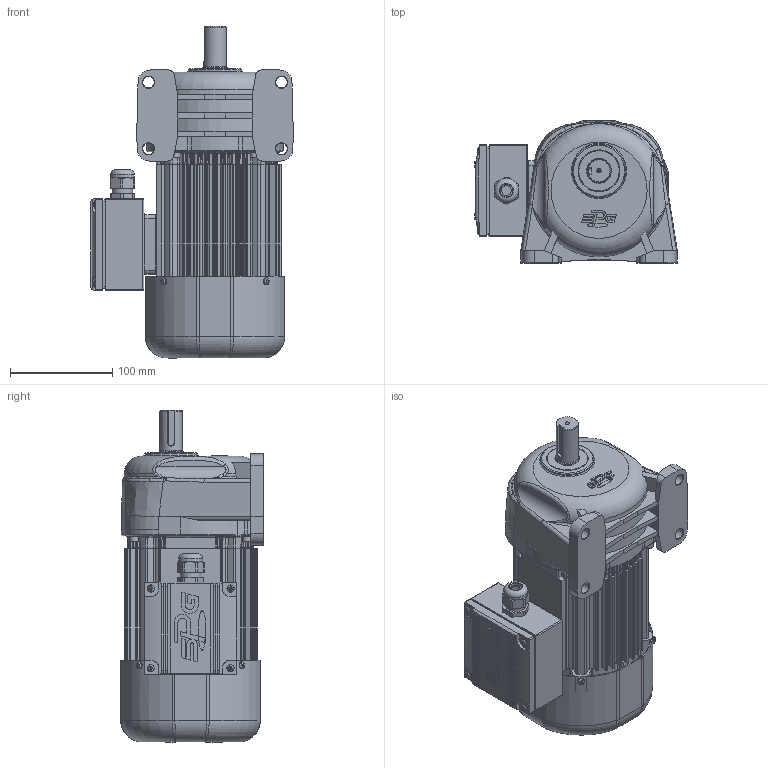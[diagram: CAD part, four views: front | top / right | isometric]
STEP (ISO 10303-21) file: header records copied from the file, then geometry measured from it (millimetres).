
FILE_DESCRIPTION(/* description */ (''),/* implementation_level */ '2;1');
FILE_NAME(/* name */ 'Z:\동력 3D 파일\PAL22-(30~100)-MC(D)020[ ]L_(3D).stp',/* time_stamp */ '2021-10-18T16:33:29+09:00',/* author */ ('jaebok'),/* organization */ (''),/* preprocessor_version */ 'ST-DEVELOPER v18.1',/* originating_system */ 'Autodesk Inventor 2022',/* authorisation */ '');
FILE_SCHEMA (('AUTOMOTIVE_DESIGN { 1 0 10303 214 3 1 1 }'));
Products named in the file (1): 부품3
Bounding box: 198 x 139.2 x 324.5 mm (x, y, z)
Volume: 1490108.5 mm3; surface area: 535463.3 mm2
Topology: 3 solids, 34 shells, 3190 faces, 8098 edges, 4895 vertices
Faces by surface type: plane 1128, cylinder 904, bspline 679, torus 258, cone 167, sphere 54
Full cylindrical faces by diameter (mm): 1.5 x2, 2 x5, 3 x4, 3.242 x4, 3.25 x1, 3.3 x8, 3.6 x4, 3.8 x3, 4 x20, 4.2 x13, 4.917 x4, 5 x24, 5.5 x4, 5.8 x2, 5.9 x3, 6 x13, 6.4 x1, 6.5 x6, 7 x12, 7.9 x6, 8 x8, 8.5 x5, 8.7 x1, 10 x1, 11 x4, 12.5 x1, 13 x1, 14 x1, 15 x1, 16 x1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
Entity records: 129382 total; most frequent: CARTESIAN_POINT 53893, ORIENTED_EDGE 15770, DIRECTION 14272, EDGE_CURVE 7885, AXIS2_PLACEMENT_3D 5658, VERTEX_POINT 4890, EDGE_LOOP 3454, FACE_OUTER_BOUND 3190
